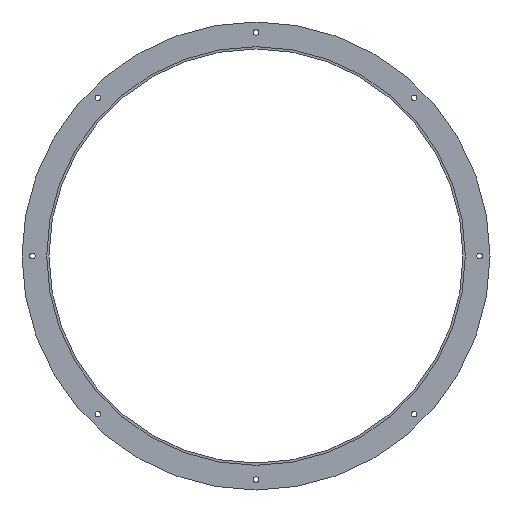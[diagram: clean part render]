
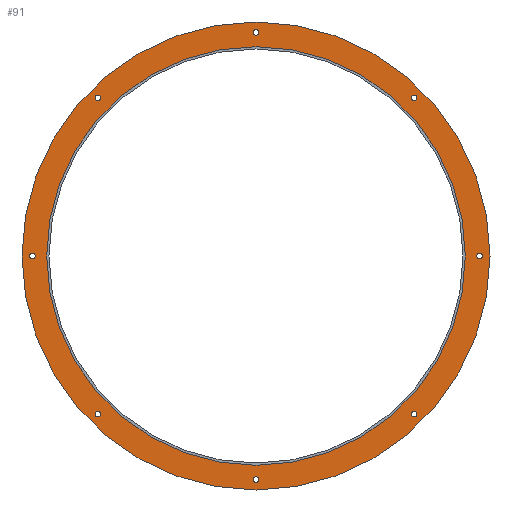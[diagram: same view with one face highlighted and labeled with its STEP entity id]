
A CAD part, front view. The second image highlights one B-rep face of the part: STEP entity #91.
In plain terms, the highlighted planar face has unit normal (0, -1, 0).
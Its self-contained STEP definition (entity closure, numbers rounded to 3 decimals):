
#91=ADVANCED_FACE('',(#179,#180,#181,#182,#183,#184,#185,#186,#187,#188),#189,.F.);
#179=FACE_BOUND('',#280,.T.);
#180=FACE_BOUND('',#281,.T.);
#181=FACE_BOUND('',#282,.T.);
#182=FACE_BOUND('',#283,.T.);
#183=FACE_BOUND('',#284,.T.);
#184=FACE_BOUND('',#285,.T.);
#185=FACE_BOUND('',#286,.T.);
#186=FACE_BOUND('',#287,.T.);
#187=FACE_OUTER_BOUND('',#288,.T.);
#188=FACE_BOUND('',#289,.T.);
#189=PLANE('',#290);
#280=EDGE_LOOP('',(#480,#481));
#281=EDGE_LOOP('',(#482,#483));
#282=EDGE_LOOP('',(#484,#485));
#283=EDGE_LOOP('',(#486,#487));
#284=EDGE_LOOP('',(#488,#489));
#285=EDGE_LOOP('',(#490,#491));
#286=EDGE_LOOP('',(#492,#493));
#287=EDGE_LOOP('',(#494,#495));
#288=EDGE_LOOP('',(#496,#497));
#289=EDGE_LOOP('',(#498,#499));
#290=AXIS2_PLACEMENT_3D('',#500,#501,#502);
#480=ORIENTED_EDGE('',*,*,#595,.T.);
#481=ORIENTED_EDGE('',*,*,#600,.T.);
#482=ORIENTED_EDGE('',*,*,#590,.T.);
#483=ORIENTED_EDGE('',*,*,#603,.T.);
#484=ORIENTED_EDGE('',*,*,#585,.T.);
#485=ORIENTED_EDGE('',*,*,#606,.T.);
#486=ORIENTED_EDGE('',*,*,#580,.T.);
#487=ORIENTED_EDGE('',*,*,#609,.T.);
#488=ORIENTED_EDGE('',*,*,#575,.T.);
#489=ORIENTED_EDGE('',*,*,#612,.T.);
#490=ORIENTED_EDGE('',*,*,#570,.T.);
#491=ORIENTED_EDGE('',*,*,#615,.T.);
#492=ORIENTED_EDGE('',*,*,#565,.T.);
#493=ORIENTED_EDGE('',*,*,#618,.T.);
#494=ORIENTED_EDGE('',*,*,#560,.T.);
#495=ORIENTED_EDGE('',*,*,#621,.T.);
#496=ORIENTED_EDGE('',*,*,#547,.F.);
#497=ORIENTED_EDGE('',*,*,#629,.F.);
#498=ORIENTED_EDGE('',*,*,#552,.F.);
#499=ORIENTED_EDGE('',*,*,#626,.F.);
#500=CARTESIAN_POINT('',(0.0,-4.0,0.));
#501=DIRECTION('',(0.0,1.0,0.));
#502=DIRECTION('',(1.0,0.0,0.0));
#547=EDGE_CURVE('',#640,#636,#642,.T.);
#552=EDGE_CURVE('',#649,#645,#651,.T.);
#560=EDGE_CURVE('',#665,#662,#666,.T.);
#565=EDGE_CURVE('',#674,#671,#675,.T.);
#570=EDGE_CURVE('',#683,#680,#684,.T.);
#575=EDGE_CURVE('',#692,#689,#693,.T.);
#580=EDGE_CURVE('',#701,#698,#702,.T.);
#585=EDGE_CURVE('',#710,#707,#711,.T.);
#590=EDGE_CURVE('',#719,#716,#720,.T.);
#595=EDGE_CURVE('',#728,#725,#729,.T.);
#600=EDGE_CURVE('',#725,#728,#735,.T.);
#603=EDGE_CURVE('',#716,#719,#738,.T.);
#606=EDGE_CURVE('',#707,#710,#741,.T.);
#609=EDGE_CURVE('',#698,#701,#744,.T.);
#612=EDGE_CURVE('',#689,#692,#747,.T.);
#615=EDGE_CURVE('',#680,#683,#750,.T.);
#618=EDGE_CURVE('',#671,#674,#753,.T.);
#621=EDGE_CURVE('',#662,#665,#756,.T.);
#626=EDGE_CURVE('',#645,#649,#761,.T.);
#629=EDGE_CURVE('',#636,#640,#764,.T.);
#636=VERTEX_POINT('',#771);
#640=VERTEX_POINT('',#776);
#642=CIRCLE('',#779,403.0);
#645=VERTEX_POINT('',#782);
#649=VERTEX_POINT('',#787);
#651=CIRCLE('',#790,360.5);
#662=VERTEX_POINT('',#803);
#665=VERTEX_POINT('',#807);
#666=CIRCLE('',#808,5.0);
#671=VERTEX_POINT('',#814);
#674=VERTEX_POINT('',#818);
#675=CIRCLE('',#819,5.0);
#680=VERTEX_POINT('',#825);
#683=VERTEX_POINT('',#829);
#684=CIRCLE('',#830,5.0);
#689=VERTEX_POINT('',#836);
#692=VERTEX_POINT('',#840);
#693=CIRCLE('',#841,5.0);
#698=VERTEX_POINT('',#847);
#701=VERTEX_POINT('',#851);
#702=CIRCLE('',#852,5.0);
#707=VERTEX_POINT('',#858);
#710=VERTEX_POINT('',#862);
#711=CIRCLE('',#863,5.0);
#716=VERTEX_POINT('',#869);
#719=VERTEX_POINT('',#873);
#720=CIRCLE('',#874,5.0);
#725=VERTEX_POINT('',#880);
#728=VERTEX_POINT('',#884);
#729=CIRCLE('',#885,5.0);
#735=CIRCLE('',#892,5.0);
#738=CIRCLE('',#895,5.0);
#741=CIRCLE('',#898,5.0);
#744=CIRCLE('',#901,5.0);
#747=CIRCLE('',#904,5.0);
#750=CIRCLE('',#907,5.0);
#753=CIRCLE('',#910,5.0);
#756=CIRCLE('',#913,5.0);
#761=CIRCLE('',#918,360.5);
#764=CIRCLE('',#921,403.0);
#771=CARTESIAN_POINT('',(403.0,-4.0,0.));
#776=CARTESIAN_POINT('',(-403.0,-4.0,0.));
#779=AXIS2_PLACEMENT_3D('',#931,#932,#933);
#782=CARTESIAN_POINT('',(360.5,-4.0,0.));
#787=CARTESIAN_POINT('',(-360.5,-4.0,0.));
#790=AXIS2_PLACEMENT_3D('',#939,#940,#941);
#803=CARTESIAN_POINT('',(390.0,-4.0,0.));
#807=CARTESIAN_POINT('',(380.0,-4.0,0.));
#808=AXIS2_PLACEMENT_3D('',#951,#952,#953);
#814=CARTESIAN_POINT('',(275.772,-4.,275.772));
#818=CARTESIAN_POINT('',(268.701,-4.,268.701));
#819=AXIS2_PLACEMENT_3D('',#959,#960,#961);
#825=CARTESIAN_POINT('',(0.,-4.,390.0));
#829=CARTESIAN_POINT('',(0.,-4.,380.0));
#830=AXIS2_PLACEMENT_3D('',#967,#968,#969);
#836=CARTESIAN_POINT('',(-275.772,-4.,275.772));
#840=CARTESIAN_POINT('',(-268.701,-4.,268.701));
#841=AXIS2_PLACEMENT_3D('',#975,#976,#977);
#847=CARTESIAN_POINT('',(-390.0,-4.0,0.));
#851=CARTESIAN_POINT('',(-380.0,-4.0,0.));
#852=AXIS2_PLACEMENT_3D('',#983,#984,#985);
#858=CARTESIAN_POINT('',(-275.772,-4.,-275.772));
#862=CARTESIAN_POINT('',(-268.701,-4.,-268.701));
#863=AXIS2_PLACEMENT_3D('',#991,#992,#993);
#869=CARTESIAN_POINT('',(0.,-4.,-390.0));
#873=CARTESIAN_POINT('',(0.,-4.,-380.0));
#874=AXIS2_PLACEMENT_3D('',#999,#1000,#1001);
#880=CARTESIAN_POINT('',(275.772,-4.,-275.772));
#884=CARTESIAN_POINT('',(268.701,-4.,-268.701));
#885=AXIS2_PLACEMENT_3D('',#1007,#1008,#1009);
#892=AXIS2_PLACEMENT_3D('',#1017,#1018,#1019);
#895=AXIS2_PLACEMENT_3D('',#1023,#1024,#1025);
#898=AXIS2_PLACEMENT_3D('',#1029,#1030,#1031);
#901=AXIS2_PLACEMENT_3D('',#1035,#1036,#1037);
#904=AXIS2_PLACEMENT_3D('',#1041,#1042,#1043);
#907=AXIS2_PLACEMENT_3D('',#1047,#1048,#1049);
#910=AXIS2_PLACEMENT_3D('',#1053,#1054,#1055);
#913=AXIS2_PLACEMENT_3D('',#1059,#1060,#1061);
#918=AXIS2_PLACEMENT_3D('',#1068,#1069,#1070);
#921=AXIS2_PLACEMENT_3D('',#1074,#1075,#1076);
#931=CARTESIAN_POINT('',(0.0,-4.0,0.));
#932=DIRECTION('',(0.0,1.0,0.));
#933=DIRECTION('',(1.0,0.0,0.0));
#939=CARTESIAN_POINT('',(0.0,-4.0,0.));
#940=DIRECTION('',(0.0,-1.0,0.));
#941=DIRECTION('',(1.0,0.0,0.0));
#951=CARTESIAN_POINT('',(385.0,-4.0,0.));
#952=DIRECTION('',(0.0,1.0,0.));
#953=DIRECTION('',(1.0,0.0,0.0));
#959=CARTESIAN_POINT('',(272.236,-4.,272.236));
#960=DIRECTION('',(0.0,1.0,0.));
#961=DIRECTION('',(0.707,0.,0.707));
#967=CARTESIAN_POINT('',(0.,-4.,385.0));
#968=DIRECTION('',(0.0,1.0,0.));
#969=DIRECTION('',(0.,0.,1.0));
#975=CARTESIAN_POINT('',(-272.236,-4.,272.236));
#976=DIRECTION('',(0.0,1.0,0.));
#977=DIRECTION('',(-0.707,0.,0.707));
#983=CARTESIAN_POINT('',(-385.0,-4.0,0.));
#984=DIRECTION('',(0.0,1.0,0.));
#985=DIRECTION('',(-1.0,0.,0.));
#991=CARTESIAN_POINT('',(-272.236,-4.,-272.236));
#992=DIRECTION('',(0.,1.0,0.));
#993=DIRECTION('',(-0.707,0.,-0.707));
#999=CARTESIAN_POINT('',(0.,-4.,-385.0));
#1000=DIRECTION('',(0.0,1.0,0.));
#1001=DIRECTION('',(0.,0.,-1.0));
#1007=CARTESIAN_POINT('',(272.236,-4.,-272.236));
#1008=DIRECTION('',(0.0,1.0,0.));
#1009=DIRECTION('',(0.707,0.,-0.707));
#1017=CARTESIAN_POINT('',(272.236,-4.,-272.236));
#1018=DIRECTION('',(0.0,1.0,0.));
#1019=DIRECTION('',(0.707,0.,-0.707));
#1023=CARTESIAN_POINT('',(0.,-4.,-385.0));
#1024=DIRECTION('',(0.0,1.0,0.));
#1025=DIRECTION('',(0.,0.,-1.0));
#1029=CARTESIAN_POINT('',(-272.236,-4.,-272.236));
#1030=DIRECTION('',(0.,1.0,0.));
#1031=DIRECTION('',(-0.707,0.,-0.707));
#1035=CARTESIAN_POINT('',(-385.0,-4.0,0.));
#1036=DIRECTION('',(0.0,1.0,0.));
#1037=DIRECTION('',(-1.0,0.,0.));
#1041=CARTESIAN_POINT('',(-272.236,-4.,272.236));
#1042=DIRECTION('',(0.0,1.0,0.));
#1043=DIRECTION('',(-0.707,0.,0.707));
#1047=CARTESIAN_POINT('',(0.,-4.,385.0));
#1048=DIRECTION('',(0.0,1.0,0.));
#1049=DIRECTION('',(0.,0.,1.0));
#1053=CARTESIAN_POINT('',(272.236,-4.,272.236));
#1054=DIRECTION('',(0.0,1.0,0.));
#1055=DIRECTION('',(0.707,0.,0.707));
#1059=CARTESIAN_POINT('',(385.0,-4.0,0.));
#1060=DIRECTION('',(0.0,1.0,0.));
#1061=DIRECTION('',(1.0,0.0,0.0));
#1068=CARTESIAN_POINT('',(0.0,-4.0,0.));
#1069=DIRECTION('',(0.0,-1.0,0.));
#1070=DIRECTION('',(1.0,0.0,0.0));
#1074=CARTESIAN_POINT('',(0.0,-4.0,0.));
#1075=DIRECTION('',(0.0,1.0,0.));
#1076=DIRECTION('',(1.0,0.0,0.0));
